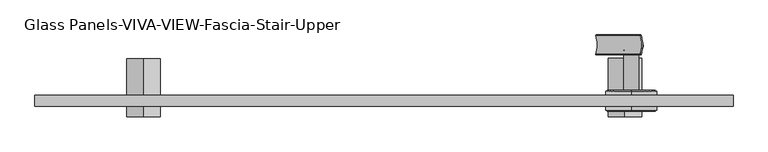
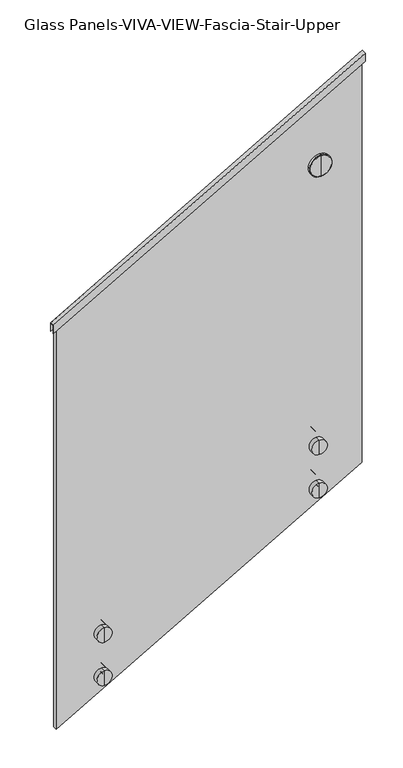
"""IFC4 building model written with IfcOpenShell, lengths in millimetres: railing geometry, Glass Panels-VIVA-VIEW-Fascia-Stair-Upper."""

from ifc_helpers import new_model, si_unit, point, frame, frame_2d, origin, place, context, project, spatial, polyline, circle_curve, trimmed, segment, composite_curve, outline, extrude, faceted_brep, source, transform, mapped, element, save
from ifc_brep_helpers import plane_surface, cylinder_surface, revolved_surface, advanced_brep


def glass_panels_viva_view_fascia_stair_upper_067d8b25(model_context):
    return source(origin(), model_context, "Body", "SolidModel", [
        faceted_brep([(36710.9578933, -2588.6094585, 3542.8464286), (36710.9578933, -2588.6094585, 3513.5919505), (36710.9578933, -2590.1969585, 3513.5919505), (36710.9578933, -2590.1969585, 3541.0180237), (36710.9578933, -2602.8969585, 3541.0180237), (36710.9578933, -2602.8969585, 3513.5919505), (36710.9578933, -2604.4844585, 3513.5919505), (36710.9578933, -2604.4844585, 3542.8464286), (37756.3266433, -2588.6094585, 4140.2), (37756.3266433, -2604.4844585, 4140.2), (37756.3266433, -2604.4844585, 4110.9455219), (37756.3266433, -2602.8969585, 4110.9455219), (37756.3266433, -2602.8969585, 4138.3715951), (37756.3266433, -2590.1969585, 4138.3715951), (37756.3266433, -2590.1969585, 4110.9455219), (37756.3266433, -2588.6094585, 4110.9455219)], [[[0, 1, 2, 3, 4, 5, 6, 7]], [[8, 9, 10, 11, 12, 13, 14, 15]], [[1, 0, 8, 15]], [[2, 1, 15, 14]], [[3, 2, 14, 13]], [[4, 3, 13, 12]], [[5, 4, 12, 11]], [[6, 5, 11, 10]], [[7, 6, 10, 9]], [[0, 7, 9, 8]]]),
        advanced_brep(
        [(36873.6628149, -2620.3591646, 2222.2661821), (36873.6628149, -2620.3591646, 2273.0661821), (36873.6628149, -2620.3591646, 2247.6661821), (36873.6628149, -2602.8966646, 2222.2661821), (36873.6628149, -2602.8966646, 2273.0661821), (36873.6628149, -2602.8966646, 2241.9511821), (36873.6628149, -2602.8966646, 2253.3811821), (36873.6628149, -2590.1966646, 2241.9511821), (36873.6628149, -2590.1966646, 2253.3811821), (36873.6628149, -2590.1966646, 2222.2661821), (36873.6628149, -2590.1966646, 2273.0661821), (36873.6628149, -2533.0468115, 2222.2661821), (36873.6628149, -2533.0468115, 2273.0661821), (36873.6628149, -2533.0468115, 2247.6661821)],
        [
            (0, 1, circle_curve(frame((36873.6628149, -2620.3591646, 2247.6661821), z_axis=(0.0, -1.0, 0.0), x_axis=(0.0, 0.0, 1.0)), 25.4)),
            (1, 2),
            (2, 0),
            (1, 0, circle_curve(frame((36873.6628149, -2620.3591646, 2247.6661821), z_axis=(0.0, -1.0, 0.0), x_axis=(0.0, 0.0, 1.0)), 25.4)),
            (3, 4, circle_curve(frame((36873.6628149, -2602.8966646, 2247.6661821), z_axis=(0.0, -1.0, 0.0), x_axis=(0.0, 0.0, 1.0)), 25.4)),
            (4, 1),
            (0, 3),
            (4, 3, circle_curve(frame((36873.6628149, -2602.8966646, 2247.6661821), z_axis=(0.0, -1.0, 0.0), x_axis=(0.0, 0.0, 1.0)), 25.4)),
            (5, 6, circle_curve(frame((36873.6628149, -2602.8966646, 2247.6661821), z_axis=(0.0, -1.0, 0.0), x_axis=(0.0, 0.0, 1.0)), 5.715)),
            (6, 4),
            (3, 5),
            (6, 5, circle_curve(frame((36873.6628149, -2602.8966646, 2247.6661821), z_axis=(0.0, -1.0, 0.0), x_axis=(0.0, 0.0, 1.0)), 5.715)),
            (7, 8, circle_curve(frame((36873.6628149, -2590.1966646, 2247.6661821), z_axis=(0.0, -1.0, 0.0), x_axis=(0.0, 0.0, 1.0)), 5.715)),
            (8, 6),
            (5, 7),
            (8, 7, circle_curve(frame((36873.6628149, -2590.1966646, 2247.6661821), z_axis=(0.0, -1.0, 0.0), x_axis=(0.0, 0.0, 1.0)), 5.715)),
            (9, 10, circle_curve(frame((36873.6628149, -2590.1966646, 2247.6661821), z_axis=(0.0, -1.0, 0.0), x_axis=(0.0, 0.0, 1.0)), 25.4)),
            (10, 8),
            (7, 9),
            (10, 9, circle_curve(frame((36873.6628149, -2590.1966646, 2247.6661821), z_axis=(0.0, -1.0, 0.0), x_axis=(0.0, 0.0, 1.0)), 25.4)),
            (11, 12, circle_curve(frame((36873.6628149, -2533.0468115, 2247.6661821), z_axis=(0.0, -1.0, 0.0), x_axis=(0.0, 0.0, 1.0)), 25.4)),
            (12, 10),
            (9, 11),
            (12, 11, circle_curve(frame((36873.6628149, -2533.0468115, 2247.6661821), z_axis=(0.0, -1.0, 0.0), x_axis=(0.0, 0.0, 1.0)), 25.4)),
            (13, 12),
            (11, 13),
        ],
        [
            plane_surface(frame((36873.6628149, -2620.3591646, 2247.6661821), z_axis=(0.0, -1.0, 0.0), x_axis=(0.0, 0.0, 1.0))),
            cylinder_surface(frame((36873.6628149, -2688.6218115, 2247.6661821), z_axis=(0.0, 1.0, 0.0), x_axis=(0.0, 0.0, 1.0)), 25.4),
            plane_surface(frame((36873.6628149, -2602.8966646, 2247.6661821), z_axis=(0.0, 1.0, 0.0), x_axis=(0.0, 0.0, 1.0))),
            cylinder_surface(frame((36873.6628149, -2688.6218115, 2247.6661821), z_axis=(0.0, 1.0, 0.0), x_axis=(0.0, 0.0, 1.0)), 5.715),
            plane_surface(frame((36873.6628149, -2590.1966646, 2247.6661821), z_axis=(0.0, -1.0, 0.0), x_axis=(0.0, 0.0, 1.0))),
            plane_surface(frame((36873.6628149, -2533.0468115, 2247.6661821), z_axis=(0.0, 1.0, 0.0), x_axis=(0.0, 0.0, 1.0))),
        ],
        [
            (0, [[1, 2, 3]]),
            (0, [[4, -3, -2]]),
            (1, [[5, 6, -1, 7]]),
            (1, [[8, -7, -4, -6]]),
            (2, [[9, 10, -5, 11]]),
            (2, [[12, -11, -8, -10]]),
            (3, [[13, 14, -9, 15]]),
            (3, [[16, -15, -12, -14]]),
            (4, [[17, 18, -13, 19]]),
            (4, [[20, -19, -16, -18]]),
            (1, [[21, 22, -17, 23]]),
            (1, [[24, -23, -20, -22]]),
            (5, [[25, -21, 26]]),
            (5, [[-26, -24, -25]]),
        ],
    ),
        advanced_brep(
        [(36873.6628149, -2602.8966646, 2394.3511821), (36873.6628149, -2602.8966646, 2405.7811821), (36873.6628149, -2602.8966646, 2425.4661821), (36873.6628149, -2602.8966646, 2374.6661821), (36873.6628149, -2590.1966646, 2394.3511821), (36873.6628149, -2590.1966646, 2405.7811821), (36873.6628149, -2590.1966646, 2374.6661821), (36873.6628149, -2590.1966646, 2425.4661821), (36873.6628149, -2533.0468115, 2374.6661821), (36873.6628149, -2533.0468115, 2425.4661821), (36873.6628149, -2533.0468115, 2400.0661821), (36873.6628149, -2620.3591646, 2374.6661821), (36873.6628149, -2620.3591646, 2425.4661821), (36873.6628149, -2620.3591646, 2400.0661821)],
        [
            (0, 1, circle_curve(frame((36873.6628149, -2602.8966646, 2400.0661821), z_axis=(0.0, -1.0, 0.0), x_axis=(0.0, 0.0, 1.0)), 5.715)),
            (1, 2),
            (2, 3, circle_curve(frame((36873.6628149, -2602.8966646, 2400.0661821), z_axis=(0.0, 1.0, 0.0), x_axis=(0.0, 0.0, 1.0)), 25.4)),
            (3, 0),
            (1, 0, circle_curve(frame((36873.6628149, -2602.8966646, 2400.0661821), z_axis=(0.0, -1.0, 0.0), x_axis=(0.0, 0.0, 1.0)), 5.715)),
            (3, 2, circle_curve(frame((36873.6628149, -2602.8966646, 2400.0661821), z_axis=(0.0, 1.0, 0.0), x_axis=(0.0, 0.0, 1.0)), 25.4)),
            (4, 5, circle_curve(frame((36873.6628149, -2590.1966646, 2400.0661821), z_axis=(0.0, -1.0, 0.0), x_axis=(0.0, 0.0, 1.0)), 5.715)),
            (5, 1),
            (0, 4),
            (5, 4, circle_curve(frame((36873.6628149, -2590.1966646, 2400.0661821), z_axis=(0.0, -1.0, 0.0), x_axis=(0.0, 0.0, 1.0)), 5.715)),
            (6, 7, circle_curve(frame((36873.6628149, -2590.1966646, 2400.0661821), z_axis=(0.0, -1.0, 0.0), x_axis=(0.0, 0.0, 1.0)), 25.4)),
            (7, 5),
            (4, 6),
            (7, 6, circle_curve(frame((36873.6628149, -2590.1966646, 2400.0661821), z_axis=(0.0, -1.0, 0.0), x_axis=(0.0, 0.0, 1.0)), 25.4)),
            (8, 9, circle_curve(frame((36873.6628149, -2533.0468115, 2400.0661821), z_axis=(0.0, -1.0, 0.0), x_axis=(0.0, 0.0, 1.0)), 25.4)),
            (9, 7),
            (6, 8),
            (9, 8, circle_curve(frame((36873.6628149, -2533.0468115, 2400.0661821), z_axis=(0.0, -1.0, 0.0), x_axis=(0.0, 0.0, 1.0)), 25.4)),
            (10, 9),
            (8, 10),
            (11, 12, circle_curve(frame((36873.6628149, -2620.3591646, 2400.0661821), z_axis=(0.0, -1.0, 0.0), x_axis=(0.0, 0.0, 1.0)), 25.4)),
            (12, 13),
            (13, 11),
            (12, 11, circle_curve(frame((36873.6628149, -2620.3591646, 2400.0661821), z_axis=(0.0, -1.0, 0.0), x_axis=(0.0, 0.0, 1.0)), 25.4)),
            (2, 12),
            (11, 3),
        ],
        [
            plane_surface(frame((36873.6628149, -2602.8966646, 2400.0661821), z_axis=(0.0, 1.0, 0.0), x_axis=(0.0, 0.0, 1.0))),
            cylinder_surface(frame((36873.6628149, -2688.6218115, 2400.0661821), z_axis=(0.0, 1.0, 0.0), x_axis=(0.0, 0.0, 1.0)), 5.715),
            plane_surface(frame((36873.6628149, -2590.1966646, 2400.0661821), z_axis=(0.0, -1.0, 0.0), x_axis=(0.0, 0.0, 1.0))),
            cylinder_surface(frame((36873.6628149, -2688.6218115, 2400.0661821), z_axis=(0.0, 1.0, 0.0), x_axis=(0.0, 0.0, 1.0)), 25.4),
            plane_surface(frame((36873.6628149, -2533.0468115, 2400.0661821), z_axis=(0.0, 1.0, 0.0), x_axis=(0.0, 0.0, 1.0))),
            plane_surface(frame((36873.6628149, -2620.3591646, 2400.0661821), z_axis=(0.0, -1.0, 0.0), x_axis=(0.0, 0.0, 1.0))),
        ],
        [
            (0, [[1, 2, 3, 4]]),
            (0, [[5, -4, 6, -2]]),
            (1, [[7, 8, -1, 9]]),
            (1, [[10, -9, -5, -8]]),
            (2, [[11, 12, -7, 13]]),
            (2, [[14, -13, -10, -12]]),
            (3, [[15, 16, -11, 17]]),
            (3, [[18, -17, -14, -16]]),
            (4, [[19, -15, 20]]),
            (4, [[-20, -18, -19]]),
            (5, [[21, 22, 23]]),
            (5, [[24, -23, -22]]),
            (3, [[-3, 25, -21, 26]]),
            (3, [[-6, -26, -24, -25]]),
        ],
    ),
        advanced_brep(
        [(37594.3878149, -2620.3591646, 2634.1090392), (37594.3878149, -2620.3591646, 2684.9090392), (37594.3878149, -2620.3591646, 2659.5090392), (37594.3878149, -2602.8966646, 2634.1090392), (37594.3878149, -2602.8966646, 2684.9090392), (37594.3878149, -2602.8966646, 2653.7940392), (37594.3878149, -2602.8966646, 2665.2240392), (37594.3878149, -2590.1966646, 2653.7940392), (37594.3878149, -2590.1966646, 2665.2240392), (37594.3878149, -2590.1966646, 2634.1090392), (37594.3878149, -2590.1966646, 2684.9090392), (37594.3878149, -2533.0468115, 2634.1090392), (37594.3878149, -2533.0468115, 2684.9090392), (37594.3878149, -2533.0468115, 2659.5090392)],
        [
            (0, 1, circle_curve(frame((37594.3878149, -2620.3591646, 2659.5090392), z_axis=(0.0, -1.0, 0.0), x_axis=(0.0, 0.0, 1.0)), 25.4)),
            (1, 2),
            (2, 0),
            (1, 0, circle_curve(frame((37594.3878149, -2620.3591646, 2659.5090392), z_axis=(0.0, -1.0, 0.0), x_axis=(0.0, 0.0, 1.0)), 25.4)),
            (3, 4, circle_curve(frame((37594.3878149, -2602.8966646, 2659.5090392), z_axis=(0.0, -1.0, 0.0), x_axis=(0.0, 0.0, 1.0)), 25.4)),
            (4, 1),
            (0, 3),
            (4, 3, circle_curve(frame((37594.3878149, -2602.8966646, 2659.5090392), z_axis=(0.0, -1.0, 0.0), x_axis=(0.0, 0.0, 1.0)), 25.4)),
            (5, 6, circle_curve(frame((37594.3878149, -2602.8966646, 2659.5090392), z_axis=(0.0, -1.0, 0.0), x_axis=(0.0, 0.0, 1.0)), 5.715)),
            (6, 4),
            (3, 5),
            (6, 5, circle_curve(frame((37594.3878149, -2602.8966646, 2659.5090392), z_axis=(0.0, -1.0, 0.0), x_axis=(0.0, 0.0, 1.0)), 5.715)),
            (7, 8, circle_curve(frame((37594.3878149, -2590.1966646, 2659.5090392), z_axis=(0.0, -1.0, 0.0), x_axis=(0.0, 0.0, 1.0)), 5.715)),
            (8, 6),
            (5, 7),
            (8, 7, circle_curve(frame((37594.3878149, -2590.1966646, 2659.5090392), z_axis=(0.0, -1.0, 0.0), x_axis=(0.0, 0.0, 1.0)), 5.715)),
            (9, 10, circle_curve(frame((37594.3878149, -2590.1966646, 2659.5090392), z_axis=(0.0, -1.0, 0.0), x_axis=(0.0, 0.0, 1.0)), 25.4)),
            (10, 8),
            (7, 9),
            (10, 9, circle_curve(frame((37594.3878149, -2590.1966646, 2659.5090392), z_axis=(0.0, -1.0, 0.0), x_axis=(0.0, 0.0, 1.0)), 25.4)),
            (11, 12, circle_curve(frame((37594.3878149, -2533.0468115, 2659.5090392), z_axis=(0.0, -1.0, 0.0), x_axis=(0.0, 0.0, 1.0)), 25.4)),
            (12, 10),
            (9, 11),
            (12, 11, circle_curve(frame((37594.3878149, -2533.0468115, 2659.5090392), z_axis=(0.0, -1.0, 0.0), x_axis=(0.0, 0.0, 1.0)), 25.4)),
            (13, 12),
            (11, 13),
        ],
        [
            plane_surface(frame((37594.3878149, -2620.3591646, 2659.5090392), z_axis=(0.0, -1.0, 0.0), x_axis=(0.0, 0.0, 1.0))),
            cylinder_surface(frame((37594.3878149, -2688.6218115, 2659.5090392), z_axis=(0.0, 1.0, 0.0), x_axis=(0.0, 0.0, 1.0)), 25.4),
            plane_surface(frame((37594.3878149, -2602.8966646, 2659.5090392), z_axis=(0.0, 1.0, 0.0), x_axis=(0.0, 0.0, 1.0))),
            cylinder_surface(frame((37594.3878149, -2688.6218115, 2659.5090392), z_axis=(0.0, 1.0, 0.0), x_axis=(0.0, 0.0, 1.0)), 5.715),
            plane_surface(frame((37594.3878149, -2590.1966646, 2659.5090392), z_axis=(0.0, -1.0, 0.0), x_axis=(0.0, 0.0, 1.0))),
            plane_surface(frame((37594.3878149, -2533.0468115, 2659.5090392), z_axis=(0.0, 1.0, 0.0), x_axis=(0.0, 0.0, 1.0))),
        ],
        [
            (0, [[1, 2, 3]]),
            (0, [[4, -3, -2]]),
            (1, [[5, 6, -1, 7]]),
            (1, [[8, -7, -4, -6]]),
            (2, [[9, 10, -5, 11]]),
            (2, [[12, -11, -8, -10]]),
            (3, [[13, 14, -9, 15]]),
            (3, [[16, -15, -12, -14]]),
            (4, [[17, 18, -13, 19]]),
            (4, [[20, -19, -16, -18]]),
            (1, [[21, 22, -17, 23]]),
            (1, [[24, -23, -20, -22]]),
            (5, [[25, -21, 26]]),
            (5, [[-26, -24, -25]]),
        ],
    ),
        advanced_brep(
        [(37594.3878149, -2602.8966646, 2806.1940392), (37594.3878149, -2602.8966646, 2817.6240392), (37594.3878149, -2602.8966646, 2837.3090392), (37594.3878149, -2602.8966646, 2786.5090392), (37594.3878149, -2590.1966646, 2806.1940392), (37594.3878149, -2590.1966646, 2817.6240392), (37594.3878149, -2590.1966646, 2786.5090392), (37594.3878149, -2590.1966646, 2837.3090392), (37594.3878149, -2533.0468115, 2786.5090392), (37594.3878149, -2533.0468115, 2837.3090392), (37594.3878149, -2533.0468115, 2811.9090392), (37594.3878149, -2620.3591646, 2786.5090392), (37594.3878149, -2620.3591646, 2837.3090392), (37594.3878149, -2620.3591646, 2811.9090392)],
        [
            (0, 1, circle_curve(frame((37594.3878149, -2602.8966646, 2811.9090392), z_axis=(0.0, -1.0, 0.0), x_axis=(0.0, 0.0, 1.0)), 5.715)),
            (1, 2),
            (2, 3, circle_curve(frame((37594.3878149, -2602.8966646, 2811.9090392), z_axis=(0.0, 1.0, 0.0), x_axis=(0.0, 0.0, 1.0)), 25.4)),
            (3, 0),
            (1, 0, circle_curve(frame((37594.3878149, -2602.8966646, 2811.9090392), z_axis=(0.0, -1.0, 0.0), x_axis=(0.0, 0.0, 1.0)), 5.715)),
            (3, 2, circle_curve(frame((37594.3878149, -2602.8966646, 2811.9090392), z_axis=(0.0, 1.0, 0.0), x_axis=(0.0, 0.0, 1.0)), 25.4)),
            (4, 5, circle_curve(frame((37594.3878149, -2590.1966646, 2811.9090392), z_axis=(0.0, -1.0, 0.0), x_axis=(0.0, 0.0, 1.0)), 5.715)),
            (5, 1),
            (0, 4),
            (5, 4, circle_curve(frame((37594.3878149, -2590.1966646, 2811.9090392), z_axis=(0.0, -1.0, 0.0), x_axis=(0.0, 0.0, 1.0)), 5.715)),
            (6, 7, circle_curve(frame((37594.3878149, -2590.1966646, 2811.9090392), z_axis=(0.0, -1.0, 0.0), x_axis=(0.0, 0.0, 1.0)), 25.4)),
            (7, 5),
            (4, 6),
            (7, 6, circle_curve(frame((37594.3878149, -2590.1966646, 2811.9090392), z_axis=(0.0, -1.0, 0.0), x_axis=(0.0, 0.0, 1.0)), 25.4)),
            (8, 9, circle_curve(frame((37594.3878149, -2533.0468115, 2811.9090392), z_axis=(0.0, -1.0, 0.0), x_axis=(0.0, 0.0, 1.0)), 25.4)),
            (9, 7),
            (6, 8),
            (9, 8, circle_curve(frame((37594.3878149, -2533.0468115, 2811.9090392), z_axis=(0.0, -1.0, 0.0), x_axis=(0.0, 0.0, 1.0)), 25.4)),
            (10, 9),
            (8, 10),
            (11, 12, circle_curve(frame((37594.3878149, -2620.3591646, 2811.9090392), z_axis=(0.0, -1.0, 0.0), x_axis=(0.0, 0.0, 1.0)), 25.4)),
            (12, 13),
            (13, 11),
            (12, 11, circle_curve(frame((37594.3878149, -2620.3591646, 2811.9090392), z_axis=(0.0, -1.0, 0.0), x_axis=(0.0, 0.0, 1.0)), 25.4)),
            (2, 12),
            (11, 3),
        ],
        [
            plane_surface(frame((37594.3878149, -2602.8966646, 2811.9090392), z_axis=(0.0, 1.0, 0.0), x_axis=(0.0, 0.0, 1.0))),
            cylinder_surface(frame((37594.3878149, -2688.6218115, 2811.9090392), z_axis=(0.0, 1.0, 0.0), x_axis=(0.0, 0.0, 1.0)), 5.715),
            plane_surface(frame((37594.3878149, -2590.1966646, 2811.9090392), z_axis=(0.0, -1.0, 0.0), x_axis=(0.0, 0.0, 1.0))),
            cylinder_surface(frame((37594.3878149, -2688.6218115, 2811.9090392), z_axis=(0.0, 1.0, 0.0), x_axis=(0.0, 0.0, 1.0)), 25.4),
            plane_surface(frame((37594.3878149, -2533.0468115, 2811.9090392), z_axis=(0.0, 1.0, 0.0), x_axis=(0.0, 0.0, 1.0))),
            plane_surface(frame((37594.3878149, -2620.3591646, 2811.9090392), z_axis=(0.0, -1.0, 0.0), x_axis=(0.0, 0.0, 1.0))),
        ],
        [
            (0, [[1, 2, 3, 4]]),
            (0, [[5, -4, 6, -2]]),
            (1, [[7, 8, -1, 9]]),
            (1, [[10, -9, -5, -8]]),
            (2, [[11, 12, -7, 13]]),
            (2, [[14, -13, -10, -12]]),
            (3, [[15, 16, -11, 17]]),
            (3, [[18, -17, -14, -16]]),
            (4, [[19, -15, 20]]),
            (4, [[-20, -18, -19]]),
            (5, [[21, 22, 23]]),
            (5, [[24, -23, -22]]),
            (3, [[-3, 25, -21, 26]]),
            (3, [[-6, -26, -24, -25]]),
        ],
    ),
        extrude(outline(polyline([(4132.9242304, 37746.7878149), (3546.9099447, 36721.2628149), (2109.7804678, 36721.2628149), (2695.7947535, 37746.7878149), (4132.9242304, 37746.7878149)])), frame((0.0, -2602.8969585, 0.0), z_axis=(0.0, 1.0, 0.0), x_axis=(0.0, 0.0, 1.0)), (0.0, 0.0, 1.0), 12.7),
        extrude(outline(composite_curve([segment(trimmed(circle_curve(frame_2d((0.0, -7.0)), 7.0), [point((0.0, -14.0))], [point((0.0, 0.0))], False, "CARTESIAN"), True, "CONTINUOUS"), segment(trimmed(circle_curve(frame_2d((0.0, -7.0)), 7.0), [point((0.0, 0.0))], [point((0.0, -14.0))], False, "CARTESIAN"), True, "CONTINUOUS")], self_intersect=False)), frame((37615.347567, -2521.3270975, 3776.2378704), z_axis=(-0.4481147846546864, 0.0, 0.8939760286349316), x_axis=(-0.8939760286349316, 0.0, -0.4481147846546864)), (0.0, 0.0, 1.0), 52.8378352),
        extrude(outline(composite_curve([segment(trimmed(circle_curve(frame_2d((18.6575251, 0.3952033)), 19.05), [point((5.2466063, 13.9247916))], [point((5.2466063, -13.1343849))], True, "CARTESIAN"), True, "CONTINUOUS"), segment(polyline([(5.2466063, -13.1343849), (4.2292192, -14.1607745)]), True, "CONTINUOUS"), segment(trimmed(circle_curve(frame_2d((3.1638974, -13.1047967)), 1.5), [point((4.2292192, -14.1607745))], [point((2.0329756, -14.0901981))], False, "CARTESIAN"), True, "CONTINUOUS"), segment(trimmed(circle_curve(frame_2d((18.6575251, 0.3952033)), 22.05), [point((2.0329756, -14.0901981))], [point((2.0329756, 14.8806048))], False, "CARTESIAN"), True, "CONTINUOUS"), segment(trimmed(circle_curve(frame_2d((3.1638974, 13.8952033)), 1.5), [point((2.0329756, 14.8806048))], [point((4.2292192, 14.9511812))], False, "CARTESIAN"), True, "CONTINUOUS"), segment(polyline([(4.2292192, 14.9511812), (5.2466063, 13.9247916)]), True, "CONTINUOUS")], self_intersect=False)), frame((37552.693589, -2512.5998652, 3807.8629743), z_axis=(0.8953503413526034, 0.0, 0.44536251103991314), x_axis=(-0.44536251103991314, 0.0, 0.8953503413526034)), (0.0, 0.0, 1.0), 74.5229187),
        extrude(outline(composite_curve([segment(trimmed(circle_curve(frame_2d((3799.1142857, 37603.9266433)), 11.0132813), [point((3799.1142857, 37614.9399245))], [point((3799.1142857, 37592.913362))], False, "CARTESIAN"), True, "CONTINUOUS"), segment(trimmed(circle_curve(frame_2d((3799.1142857, 37603.9266433)), 11.0132813), [point((3799.1142857, 37592.913362))], [point((3799.1142857, 37614.9399245))], False, "CARTESIAN"), True, "CONTINUOUS")], self_intersect=False)), frame((0.0, -2580.5727397, 0.0), z_axis=(0.0, 1.0, 0.0), x_axis=(0.0, 0.0, 1.0)), (0.0, 0.0, 1.0), 79.2757812),
        advanced_brep(
        [(37603.9266433, -2612.5211772, 3799.1142857), (37603.9266433, -2612.5211772, 3835.2299107), (37603.9266433, -2612.5211772, 3762.9986607), (37603.9266433, -2580.5727397, 3762.9986607), (37603.9266433, -2580.5727397, 3835.2299107), (37603.9266433, -2580.5727397, 3799.1142857), (37603.9266433, -2582.5571147, 3761.0142857), (37603.9266433, -2582.5571147, 3837.2142857), (37603.9266433, -2590.1969585, 3761.0142857), (37603.9266433, -2590.1969585, 3837.2142857), (37603.9266433, -2590.1969585, 3786.4142857), (37603.9266433, -2590.1969585, 3811.8142857), (37603.9266433, -2602.8969585, 3786.4142857), (37603.9266433, -2602.8969585, 3811.8142857), (37603.9266433, -2602.8969585, 3761.0142857), (37603.9266433, -2602.8969585, 3837.2142857), (37603.9266433, -2610.5368022, 3761.0142857), (37603.9266433, -2610.5368022, 3837.2142857)],
        [
            (0, 1),
            (1, 2, circle_curve(frame((37603.9266433, -2612.5211772, 3799.1142857), z_axis=(0.0, -1.0, 0.0), x_axis=(0.0, 0.0, 1.0)), 36.115625)),
            (2, 0),
            (2, 1, circle_curve(frame((37603.9266433, -2612.5211772, 3799.1142857), z_axis=(0.0, -1.0, 0.0), x_axis=(0.0, 0.0, 1.0)), 36.115625)),
            (3, 4, circle_curve(frame((37603.9266433, -2580.5727397, 3799.1142857), z_axis=(0.0, 1.0, 0.0), x_axis=(0.0, 0.0, 1.0)), 36.115625)),
            (4, 5),
            (5, 3),
            (4, 3, circle_curve(frame((37603.9266433, -2580.5727397, 3799.1142857), z_axis=(0.0, 1.0, 0.0), x_axis=(0.0, 0.0, 1.0)), 36.115625)),
            (6, 7, circle_curve(frame((37603.9266433, -2582.5571147, 3799.1142857), z_axis=(0.0, 1.0, 0.0), x_axis=(0.0, 0.0, 1.0)), 38.1)),
            (7, 4),
            (3, 6),
            (7, 6, circle_curve(frame((37603.9266433, -2582.5571147, 3799.1142857), z_axis=(0.0, 1.0, 0.0), x_axis=(0.0, 0.0, 1.0)), 38.1)),
            (8, 9, circle_curve(frame((37603.9266433, -2590.1969585, 3799.1142857), z_axis=(0.0, 1.0, 0.0), x_axis=(0.0, 0.0, 1.0)), 38.1)),
            (9, 7),
            (6, 8),
            (9, 8, circle_curve(frame((37603.9266433, -2590.1969585, 3799.1142857), z_axis=(0.0, 1.0, 0.0), x_axis=(0.0, 0.0, 1.0)), 38.1)),
            (10, 11, circle_curve(frame((37603.9266433, -2590.1969585, 3799.1142857), z_axis=(0.0, 1.0, 0.0), x_axis=(0.0, 0.0, 1.0)), 12.7)),
            (11, 9),
            (8, 10),
            (11, 10, circle_curve(frame((37603.9266433, -2590.1969585, 3799.1142857), z_axis=(0.0, 1.0, 0.0), x_axis=(0.0, 0.0, 1.0)), 12.7)),
            (12, 13, circle_curve(frame((37603.9266433, -2602.8969585, 3799.1142857), z_axis=(0.0, 1.0, 0.0), x_axis=(0.0, 0.0, 1.0)), 12.7)),
            (13, 11),
            (10, 12),
            (13, 12, circle_curve(frame((37603.9266433, -2602.8969585, 3799.1142857), z_axis=(0.0, 1.0, 0.0), x_axis=(0.0, 0.0, 1.0)), 12.7)),
            (14, 15, circle_curve(frame((37603.9266433, -2602.8969585, 3799.1142857), z_axis=(0.0, 1.0, 0.0), x_axis=(0.0, 0.0, 1.0)), 38.1)),
            (15, 13),
            (12, 14),
            (15, 14, circle_curve(frame((37603.9266433, -2602.8969585, 3799.1142857), z_axis=(0.0, 1.0, 0.0), x_axis=(0.0, 0.0, 1.0)), 38.1)),
            (16, 17, circle_curve(frame((37603.9266433, -2610.5368022, 3799.1142857), z_axis=(0.0, 1.0, 0.0), x_axis=(0.0, 0.0, 1.0)), 38.1)),
            (17, 15),
            (14, 16),
            (17, 16, circle_curve(frame((37603.9266433, -2610.5368022, 3799.1142857), z_axis=(0.0, 1.0, 0.0), x_axis=(0.0, 0.0, 1.0)), 38.1)),
            (1, 17),
            (16, 2),
        ],
        [
            plane_surface(frame((37603.9266433, -2612.5211772, 3799.1142857), z_axis=(0.0, -1.0, 0.0), x_axis=(0.0, 0.0, 1.0))),
            plane_surface(frame((37603.9266433, -2580.5727397, 3799.1142857), z_axis=(0.0, 1.0, 0.0), x_axis=(0.0, 0.0, 1.0))),
            revolved_surface(polyline([(37603.9266433, -2580.5727397, 3835.2299107), (37603.9266433, -2582.5571147, 3837.2142857)]), (37603.9266433, -2648.6368022, 3799.1142857), (0.0, -1.0, 0.0)),
            cylinder_surface(frame((37603.9266433, -2648.6368022, 3799.1142857), z_axis=(0.0, -1.0, 0.0), x_axis=(0.0, 0.0, 1.0)), 38.1),
            plane_surface(frame((37603.9266433, -2590.1969585, 3799.1142857), z_axis=(0.0, -1.0, 0.0), x_axis=(0.0, 0.0, 1.0))),
            cylinder_surface(frame((37603.9266433, -2648.6368022, 3799.1142857), z_axis=(0.0, -1.0, 0.0), x_axis=(0.0, 0.0, 1.0)), 12.7),
            plane_surface(frame((37603.9266433, -2602.8969585, 3799.1142857), z_axis=(0.0, 1.0, 0.0), x_axis=(0.0, 0.0, 1.0))),
            revolved_surface(polyline([(37603.9266433, -2610.5368022, 3837.2142857), (37603.9266433, -2612.5211772, 3835.2299107)]), (37603.9266433, -2648.6368022, 3799.1142857), (0.0, -1.0, 0.0)),
        ],
        [
            (0, [[1, 2, 3]]),
            (0, [[-3, 4, -1]]),
            (1, [[5, 6, 7]]),
            (1, [[8, -7, -6]]),
            (2, [[9, 10, -5, 11]]),
            (2, [[12, -11, -8, -10]]),
            (3, [[13, 14, -9, 15]]),
            (3, [[16, -15, -12, -14]]),
            (4, [[17, 18, -13, 19]]),
            (4, [[20, -19, -16, -18]]),
            (5, [[21, 22, -17, 23]]),
            (5, [[24, -23, -20, -22]]),
            (6, [[25, 26, -21, 27]]),
            (6, [[28, -27, -24, -26]]),
            (3, [[29, 30, -25, 31]]),
            (3, [[32, -31, -28, -30]]),
            (7, [[-2, 33, -29, 34]]),
            (7, [[-4, -34, -32, -33]]),
        ],
    ),
    ])


if __name__ == "__main__":
    model = new_model("IFC4")
    model_context = context("Model", 3, world=origin())
    ifc_project = project(units=[si_unit("LENGTHUNIT", "METRE", prefix="MILLI")], contexts=[model_context])
    site = spatial("IfcSite", under=ifc_project)
    building = spatial("IfcBuilding", under=site)
    placement = place(None, origin())
    glass_panels_viva_view_fascia_stair_upper_shape = glass_panels_viva_view_fascia_stair_upper_067d8b25(model_context)
    element("IfcRailing", 1, ObjectType="Glass Panels-VIVA-VIEW-Fascia-Stair-Upper", at=placement, inside=building, context=model_context, shape_type="MappedRepresentation", body=[
        mapped(glass_panels_viva_view_fascia_stair_upper_shape, transform((0.0, 0.0, 0.0), x_axis=(1.0, 0.0, 0.0), y_axis=(0.0, 1.0, 0.0), z_axis=(0.0, 0.0, 1.0))),
    ])
    save(model, "model.ifc")
